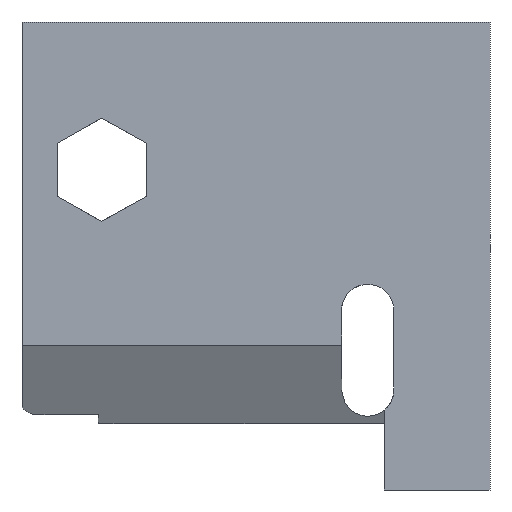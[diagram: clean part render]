
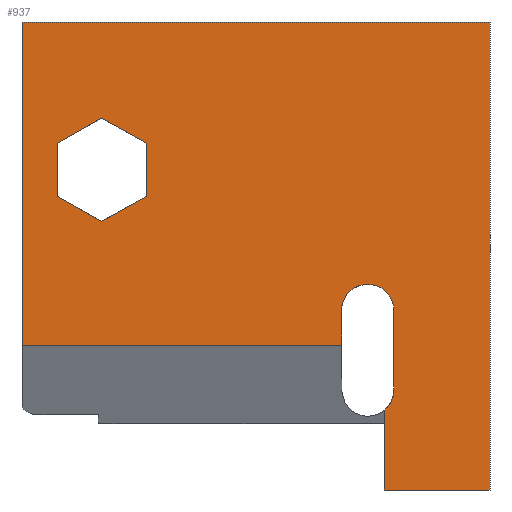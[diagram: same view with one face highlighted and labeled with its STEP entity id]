
A CAD part, front view. The second image highlights one B-rep face of the part: STEP entity #937.
In plain terms, the highlighted planar face has unit normal (0, -1, 0).
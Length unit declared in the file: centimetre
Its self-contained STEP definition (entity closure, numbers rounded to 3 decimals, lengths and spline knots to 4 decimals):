
#11 = CARTESIAN_POINT ( 'NONE',  ( 74.8611, 0., 627.4205 ) ) ;
#17 = CARTESIAN_POINT ( 'NONE',  ( 0., 0., 0. ) ) ;
#18 = CIRCLE ( 'NONE', #507, 55.8727 ) ;
#26 = EDGE_CURVE ( 'NONE', #921, #971, #1394, .T. ) ;
#52 = DIRECTION ( 'NONE',  ( -0.874, 0., -0.485 ) ) ;
#57 = CARTESIAN_POINT ( 'NONE',  ( 0., 0., 1000. ) ) ;
#78 = CARTESIAN_POINT ( 'NONE',  ( 1000., 0., 1000. ) ) ;
#84 = ORIENTED_EDGE ( 'NONE', *, *, #133, .F. ) ;
#120 = CARTESIAN_POINT ( 'NONE',  ( 794.6064, 0., 383.5751 ) ) ;
#125 = CARTESIAN_POINT ( 'NONE',  ( 682.861, 0., 213.638 ) ) ;
#129 = VECTOR ( 'NONE', #1118, 100. ) ;
#133 = EDGE_CURVE ( 'NONE', #962, #1269, #1032, .T. ) ;
#146 = CARTESIAN_POINT ( 'NONE',  ( 0., 0., 1000. ) ) ;
#151 = ORIENTED_EDGE ( 'NONE', *, *, #726, .T. ) ;
#160 = FACE_OUTER_BOUND ( 'NONE', #408, .T. ) ;
#172 = VECTOR ( 'NONE', #488, 100. ) ;
#175 = ORIENTED_EDGE ( 'NONE', *, *, #1226, .T. ) ;
#193 = DIRECTION ( 'NONE',  ( -1., 0., 0. ) ) ;
#199 = VERTEX_POINT ( 'NONE', #78 ) ;
#214 = LINE ( 'NONE', #120, #673 ) ;
#227 = ORIENTED_EDGE ( 'NONE', *, *, #1122, .T. ) ;
#237 = DIRECTION ( 'NONE',  ( 0., 0., 1. ) ) ;
#246 = CARTESIAN_POINT ( 'NONE',  ( 169.6372, 0., 794.7714 ) ) ;
#261 = LINE ( 'NONE', #689, #286 ) ;
#266 = DIRECTION ( 'NONE',  ( 0., 0., 1. ) ) ;
#273 = EDGE_CURVE ( 'NONE', #199, #1185, #1367, .T. ) ;
#275 = EDGE_CURVE ( 'NONE', #802, #971, #261, .T. ) ;
#277 = EDGE_CURVE ( 'NONE', #921, #199, #1126, .T. ) ;
#284 = VECTOR ( 'NONE', #656, 100. ) ;
#286 = VECTOR ( 'NONE', #193, 100. ) ;
#294 = DIRECTION ( 'NONE',  ( 1., 0., 0. ) ) ;
#328 = CARTESIAN_POINT ( 'NONE',  ( 0., 0., 1000. ) ) ;
#338 = CARTESIAN_POINT ( 'NONE',  ( 169.6372, 0., 573.7661 ) ) ;
#353 = DIRECTION ( 'NONE',  ( 0., 1., 0. ) ) ;
#381 = CARTESIAN_POINT ( 'NONE',  ( 169.6372, 0., 794.7714 ) ) ;
#408 = EDGE_LOOP ( 'NONE', ( #227, #1151, #84, #151, #550, #517, #1071, #610, #579, #574, #414 ) ) ;
#411 = CARTESIAN_POINT ( 'NONE',  ( 738.7337, 0., 383.5751 ) ) ;
#414 = ORIENTED_EDGE ( 'NONE', *, *, #765, .T. ) ;
#435 = VECTOR ( 'NONE', #52, 100. ) ;
#441 = CARTESIAN_POINT ( 'NONE',  ( 1000., 0., 0. ) ) ;
#456 = CARTESIAN_POINT ( 'NONE',  ( 682.861, 0., 309.4076 ) ) ;
#467 = CARTESIAN_POINT ( 'NONE',  ( 266.2573, 0., 627.4205 ) ) ;
#478 = CIRCLE ( 'NONE', #1148, 55.8727 ) ;
#481 = CARTESIAN_POINT ( 'NONE',  ( 774.2549, 0., 170.5102 ) ) ;
#488 = DIRECTION ( 'NONE',  ( 0., 0., 1. ) ) ;
#490 = PLANE ( 'NONE',  #1063 ) ;
#507 = AXIS2_PLACEMENT_3D ( 'NONE', #1100, #353, #563 ) ;
#517 = ORIENTED_EDGE ( 'NONE', *, *, #277, .F. ) ;
#527 = DIRECTION ( 'NONE',  ( 0., 0., 1. ) ) ;
#541 = EDGE_CURVE ( 'NONE', #759, #850, #1208, .T. ) ;
#546 = DIRECTION ( 'NONE',  ( 0., 0., -1. ) ) ;
#550 = ORIENTED_EDGE ( 'NONE', *, *, #273, .F. ) ;
#557 = EDGE_CURVE ( 'NONE', #802, #601, #1098, .T. ) ;
#563 = DIRECTION ( 'NONE',  ( 0., 0., 1. ) ) ;
#567 = CARTESIAN_POINT ( 'NONE',  ( 74.8611, 0., 741.1169 ) ) ;
#573 = CARTESIAN_POINT ( 'NONE',  ( 74.8611, 0., 627.4205 ) ) ;
#574 = ORIENTED_EDGE ( 'NONE', *, *, #1037, .T. ) ;
#579 = ORIENTED_EDGE ( 'NONE', *, *, #557, .T. ) ;
#586 = CARTESIAN_POINT ( 'NONE',  ( 74.8611, 0., 741.1169 ) ) ;
#588 = CARTESIAN_POINT ( 'NONE',  ( 1000., 0., 1000. ) ) ;
#599 = CARTESIAN_POINT ( 'NONE',  ( 266.2573, 0., 627.4205 ) ) ;
#601 = VERTEX_POINT ( 'NONE', #777 ) ;
#610 = ORIENTED_EDGE ( 'NONE', *, *, #275, .F. ) ;
#621 = VECTOR ( 'NONE', #1218, 100. ) ;
#632 = CIRCLE ( 'NONE', #832, 55.8727 ) ;
#633 = VECTOR ( 'NONE', #1248, 100. ) ;
#639 = ORIENTED_EDGE ( 'NONE', *, *, #787, .T. ) ;
#641 = EDGE_CURVE ( 'NONE', #869, #1080, #781, .T. ) ;
#656 = DIRECTION ( 'NONE',  ( -0.87, 0., 0.493 ) ) ;
#673 = VECTOR ( 'NONE', #1327, 100. ) ;
#687 = CARTESIAN_POINT ( 'NONE',  ( 738.7337, 0., 439.4478 ) ) ;
#689 = CARTESIAN_POINT ( 'NONE',  ( 774.2549, 0., 309.4076 ) ) ;
#713 = EDGE_CURVE ( 'NONE', #850, #869, #1211, .T. ) ;
#718 = DIRECTION ( 'NONE',  ( 0., 1., 0. ) ) ;
#726 = EDGE_CURVE ( 'NONE', #962, #1185, #1096, .T. ) ;
#759 = VERTEX_POINT ( 'NONE', #11 ) ;
#763 = LINE ( 'NONE', #599, #435 ) ;
#765 = EDGE_CURVE ( 'NONE', #1292, #860, #18, .T. ) ;
#777 = CARTESIAN_POINT ( 'NONE',  ( 682.861, 0., 383.5751 ) ) ;
#781 = LINE ( 'NONE', #246, #621 ) ;
#787 = EDGE_CURVE ( 'NONE', #910, #759, #1299, .T. ) ;
#799 = CARTESIAN_POINT ( 'NONE',  ( 738.7337, 0., 213.638 ) ) ;
#802 = VERTEX_POINT ( 'NONE', #456 ) ;
#821 = CARTESIAN_POINT ( 'NONE',  ( 0., 0., 309.4076 ) ) ;
#832 = AXIS2_PLACEMENT_3D ( 'NONE', #799, #1129, #1017 ) ;
#842 = ORIENTED_EDGE ( 'NONE', *, *, #713, .T. ) ;
#850 = VERTEX_POINT ( 'NONE', #586 ) ;
#860 = VERTEX_POINT ( 'NONE', #917 ) ;
#868 = CARTESIAN_POINT ( 'NONE',  ( 266.2573, 0., 741.1169 ) ) ;
#869 = VERTEX_POINT ( 'NONE', #381 ) ;
#876 = VECTOR ( 'NONE', #995, 100. ) ;
#909 = DIRECTION ( 'NONE',  ( 0., 0., -1. ) ) ;
#910 = VERTEX_POINT ( 'NONE', #1352 ) ;
#917 = CARTESIAN_POINT ( 'NONE',  ( 794.6064, 0., 383.5751 ) ) ;
#921 = VERTEX_POINT ( 'NONE', #57 ) ;
#925 = LINE ( 'NONE', #1222, #633 ) ;
#931 = CARTESIAN_POINT ( 'NONE',  ( 774.2549, 0., 0. ) ) ;
#937 = ADVANCED_FACE ( 'NONE', ( #1221, #160 ), #490, .F. ) ;
#954 = ORIENTED_EDGE ( 'NONE', *, *, #541, .T. ) ;
#958 = EDGE_CURVE ( 'NONE', #1191, #1269, #632, .T. ) ;
#962 = VERTEX_POINT ( 'NONE', #931 ) ;
#971 = VERTEX_POINT ( 'NONE', #821 ) ;
#995 = DIRECTION ( 'NONE',  ( 1., 0., 0. ) ) ;
#1004 = VECTOR ( 'NONE', #294, 100. ) ;
#1017 = DIRECTION ( 'NONE',  ( 0., 0., 1. ) ) ;
#1032 = LINE ( 'NONE', #1238, #172 ) ;
#1037 = EDGE_CURVE ( 'NONE', #601, #1292, #478, .T. ) ;
#1063 = AXIS2_PLACEMENT_3D ( 'NONE', #146, #1227, #266 ) ;
#1071 = ORIENTED_EDGE ( 'NONE', *, *, #26, .T. ) ;
#1080 = VERTEX_POINT ( 'NONE', #868 ) ;
#1096 = LINE ( 'NONE', #17, #876 ) ;
#1098 = LINE ( 'NONE', #125, #129 ) ;
#1100 = CARTESIAN_POINT ( 'NONE',  ( 738.7337, 0., 383.5751 ) ) ;
#1102 = VECTOR ( 'NONE', #1105, 100. ) ;
#1105 = DIRECTION ( 'NONE',  ( 0.87, 0., 0.493 ) ) ;
#1118 = DIRECTION ( 'NONE',  ( 0., 0., 1. ) ) ;
#1122 = EDGE_CURVE ( 'NONE', #860, #1191, #214, .T. ) ;
#1126 = LINE ( 'NONE', #1236, #1004 ) ;
#1129 = DIRECTION ( 'NONE',  ( 0., 1., 0. ) ) ;
#1141 = VECTOR ( 'NONE', #909, 100. ) ;
#1148 = AXIS2_PLACEMENT_3D ( 'NONE', #411, #718, #527 ) ;
#1151 = ORIENTED_EDGE ( 'NONE', *, *, #958, .T. ) ;
#1181 = VERTEX_POINT ( 'NONE', #467 ) ;
#1185 = VERTEX_POINT ( 'NONE', #441 ) ;
#1191 = VERTEX_POINT ( 'NONE', #1320 ) ;
#1208 = LINE ( 'NONE', #573, #1334 ) ;
#1211 = LINE ( 'NONE', #567, #1102 ) ;
#1218 = DIRECTION ( 'NONE',  ( 0.874, 0., -0.485 ) ) ;
#1221 = FACE_BOUND ( 'NONE', #1265, .T. ) ;
#1222 = CARTESIAN_POINT ( 'NONE',  ( 266.2573, 0., 741.1169 ) ) ;
#1226 = EDGE_CURVE ( 'NONE', #1181, #910, #763, .T. ) ;
#1227 = DIRECTION ( 'NONE',  ( 0., 1., 0. ) ) ;
#1236 = CARTESIAN_POINT ( 'NONE',  ( 0., 0., 1000. ) ) ;
#1238 = CARTESIAN_POINT ( 'NONE',  ( 774.2549, 0., 309.4076 ) ) ;
#1248 = DIRECTION ( 'NONE',  ( 0., 0., -1. ) ) ;
#1265 = EDGE_LOOP ( 'NONE', ( #1391, #1275, #175, #639, #954, #842 ) ) ;
#1269 = VERTEX_POINT ( 'NONE', #481 ) ;
#1275 = ORIENTED_EDGE ( 'NONE', *, *, #1303, .T. ) ;
#1292 = VERTEX_POINT ( 'NONE', #687 ) ;
#1299 = LINE ( 'NONE', #338, #284 ) ;
#1303 = EDGE_CURVE ( 'NONE', #1080, #1181, #925, .T. ) ;
#1320 = CARTESIAN_POINT ( 'NONE',  ( 794.6064, 0., 213.638 ) ) ;
#1327 = DIRECTION ( 'NONE',  ( 0., 0., -1. ) ) ;
#1334 = VECTOR ( 'NONE', #237, 100. ) ;
#1352 = CARTESIAN_POINT ( 'NONE',  ( 169.6372, 0., 573.7661 ) ) ;
#1360 = VECTOR ( 'NONE', #546, 100. ) ;
#1367 = LINE ( 'NONE', #588, #1141 ) ;
#1391 = ORIENTED_EDGE ( 'NONE', *, *, #641, .T. ) ;
#1394 = LINE ( 'NONE', #328, #1360 ) ;
